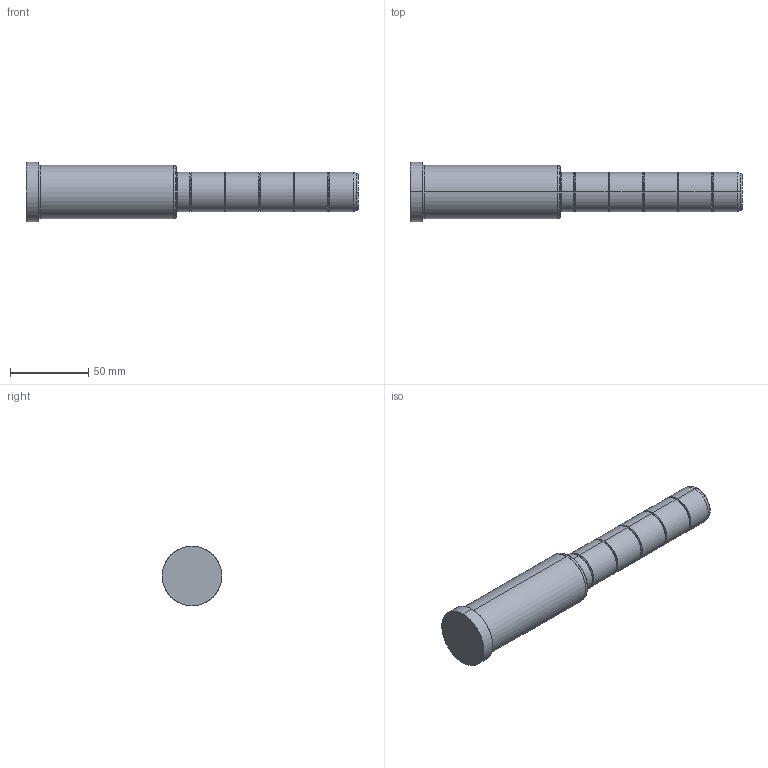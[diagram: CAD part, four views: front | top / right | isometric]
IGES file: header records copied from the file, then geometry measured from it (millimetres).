
Start section: SolidWorks IGES file using analytic representation for surfaces
Global section: file name: C:\Users\Dell\Desktop\deltakont\kontrol edilecekler\D02\Ø25\D02_25x96x116.IGS; native system: SolidWorks 2010; preprocessor: SolidWorks 2010; author: Dell; date: 111225.234146; units: millimetre
Bounding box: 212 x 38 x 38 mm (x, y, z)
Surface area: 21808.8 mm2 (no closed solid volume)
Topology: 0 solids, 0 shells, 54 faces, 816 edges, 816 vertices
Faces by surface type: bspline 30, revolution 24
